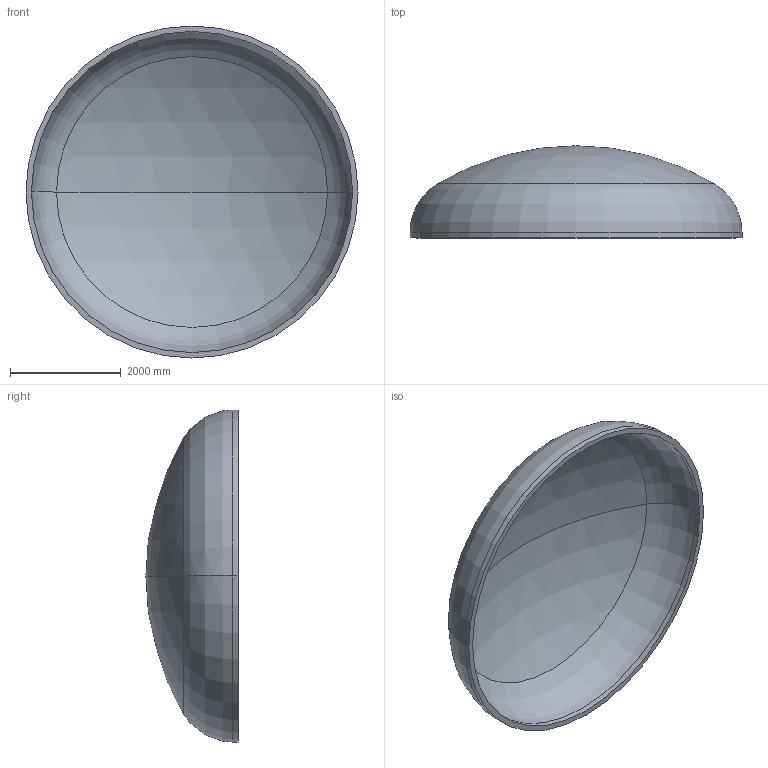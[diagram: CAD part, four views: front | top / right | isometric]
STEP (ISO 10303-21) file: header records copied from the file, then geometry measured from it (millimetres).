
FILE_DESCRIPTION (( 'STEP AP203' ), '1' );
FILE_NAME ('DIN 28013 Korbbogenform_-_Boden DIN 28013 - 6000 x 100 - I - s=98.step', '2016-07-04T10:38:44', ( '' ), ( '' ), 'SwSTEP 2.0', 'SolidWorks 2013', '' );
FILE_SCHEMA (( 'CONFIG_CONTROL_DESIGN' ));
Length unit declared in the file: millimetre
Products named in the file (1): DIN 28013 Korbbogenform_-_Boden DIN 28013 - 6000 x 100 - I - s=98
Bounding box: 6000 x 1665.27 x 6000 mm (x, y, z)
Volume: 3938316225.6 mm3; surface area: 82210969.8 mm2
Topology: 1 solids, 1 shells, 13 faces, 24 edges, 14 vertices
Faces by surface type: torus 4, cylinder 4, sphere 4, plane 1
Entity records: 407 total; most frequent: DIRECTION 72, CARTESIAN_POINT 52, ORIENTED_EDGE 48, AXIS2_PLACEMENT_3D 34, EDGE_CURVE 24, CIRCLE 20, VERTEX_POINT 14, EDGE_LOOP 14
